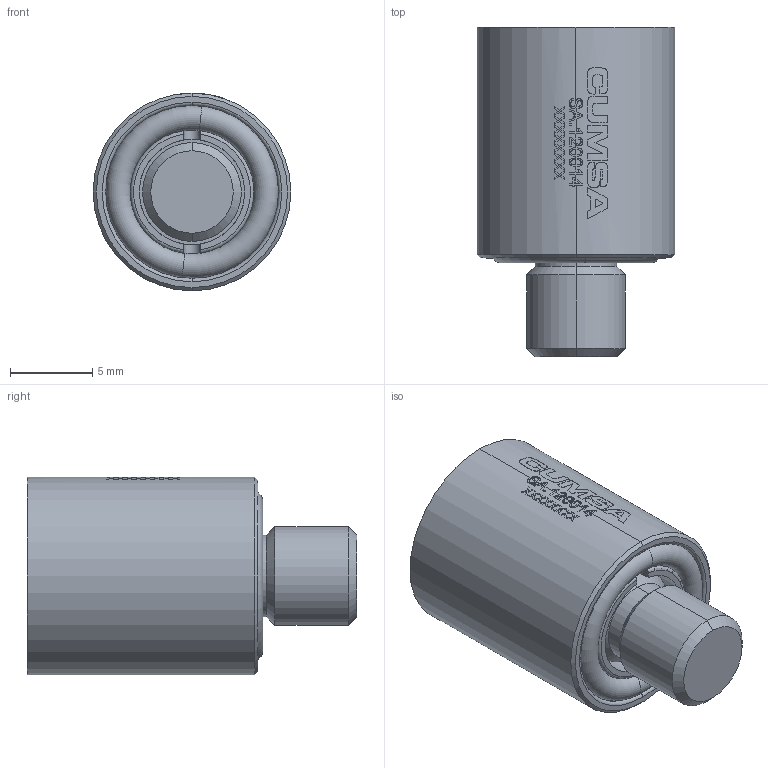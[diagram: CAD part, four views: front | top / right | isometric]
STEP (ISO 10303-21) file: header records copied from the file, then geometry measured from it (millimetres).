
FILE_DESCRIPTION (( 'STEP AP214' ), '1' );
FILE_NAME ('SA120014.STEP', '2018-04-09T09:51:12', ( '' ), ( '' ), 'SwSTEP 2.0', 'SolidWorks 2017', '' );
FILE_SCHEMA (( 'AUTOMOTIVE_DESIGN' ));
Length unit declared in the file: millimetre
Products named in the file (5): JT7.5x1.5; SA120014; 9SA120014-C_acabado; 9SA120014-T; 9SA120014-I_acabado
Assembly tree (4 placements, depth 2):
  SA120014
    9SA120014-C_acabado
    9SA120014-I_acabado
    9SA120014-T
    JT7.5x1.5
Bounding box: 12 x 20 x 12 mm (x, y, z)
Volume: 1595.8 mm3; surface area: 1898.2 mm2
Topology: 4 solids, 4 shells, 436 faces, 1194 edges, 781 vertices
Faces by surface type: bspline 216, plane 119, cylinder 67, cone 22, torus 12
Entity records: 25487 total; most frequent: CARTESIAN_POINT 12529, ORIENTED_EDGE 2384, EDGE_CURVE 1192, DIRECTION 1019, VERTEX_POINT 781, B_SPLINE_CURVE_WITH_KNOTS 771, EDGE_LOOP 459, FACE_OUTER_BOUND 436
